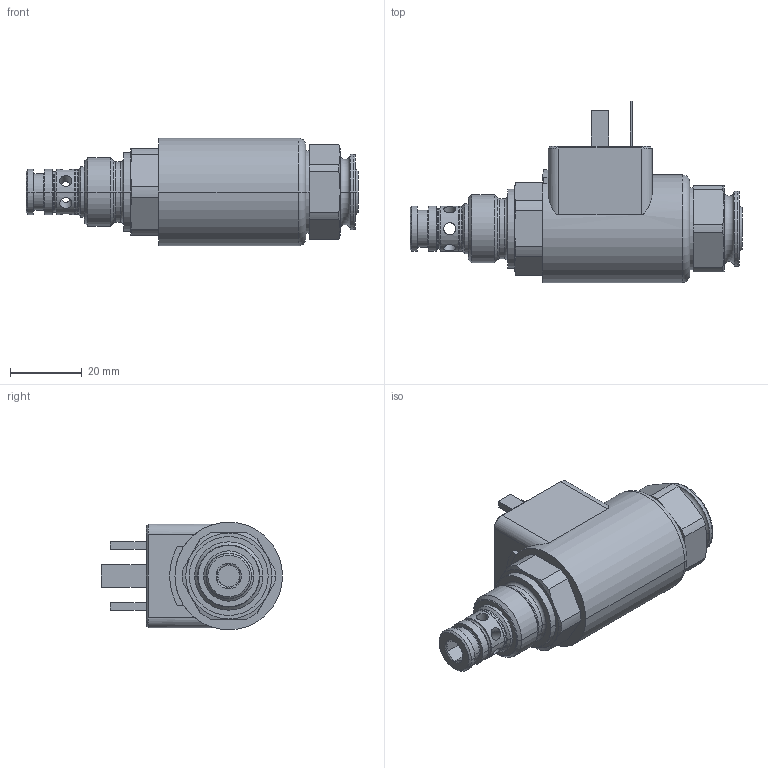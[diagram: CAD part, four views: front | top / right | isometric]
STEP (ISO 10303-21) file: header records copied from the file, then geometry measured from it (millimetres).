
FILE_DESCRIPTION((''),'2;1');
FILE_NAME('1000236254_ASM','2021-04-06T',('l.soukupova'),(''),'PRO/ENGINEER BY PARAMETRIC TECHNOLOGY CORPORATION, 2015440','PRO/ENGINEER BY PARAMETRIC TECHNOLOGY CORPORATION, 2015440','');
FILE_SCHEMA(('AUTOMOTIVE_DESIGN { 1 0 10303 214 1 1 1 1 }'));
Length unit declared in the file: millimetre
Products named in the file (3): 1000236045; C14B_E1_AF0; 1000236254_ASM
Assembly tree (2 placements, depth 2):
  1000236254_ASM
    1000236045
    C14B_E1_AF0
Bounding box: 92.6 x 50.5 x 30 mm (x, y, z)
Volume: 52595.7 mm3; surface area: 16206.9 mm2
Topology: 2 solids, 4 shells, 209 faces, 498 edges, 325 vertices
Faces by surface type: plane 81, cylinder 75, cone 31, torus 22
Entity records: 10320 total; most frequent: CARTESIAN_POINT 2158, DIRECTION 1106, ORIENTED_EDGE 952, PRESENTATION_STYLE_ASSIGNMENT 650, STYLED_ITEM 548, CURVE_STYLE 507, EDGE_CURVE 480, AXIS2_PLACEMENT_3D 434
